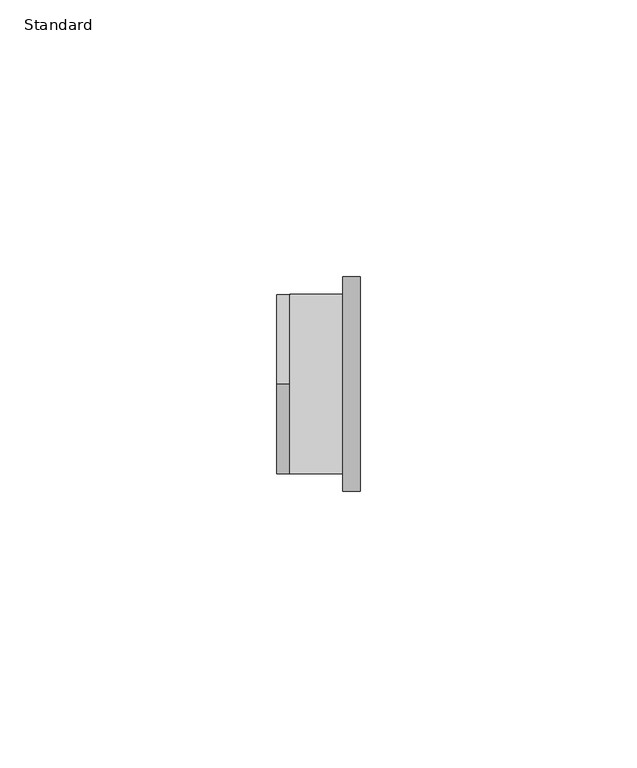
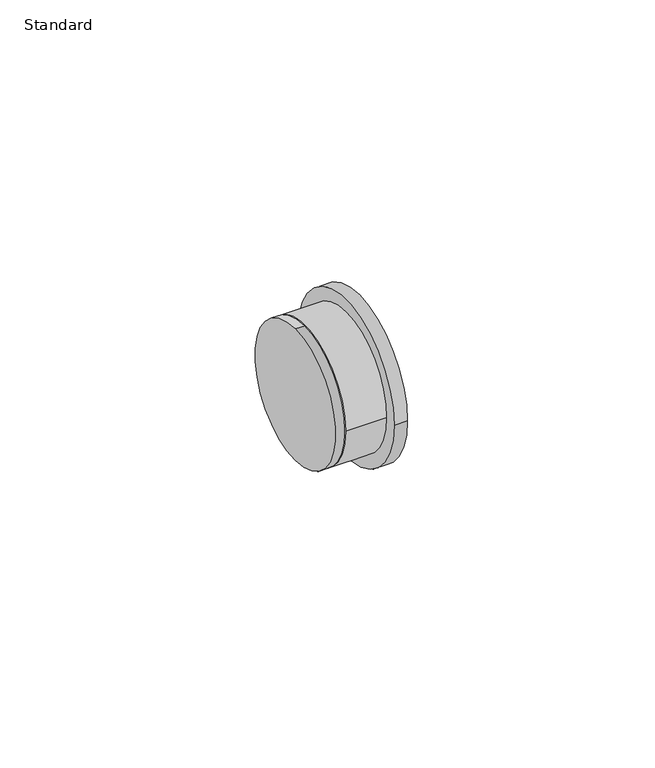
"""IFC4 building model written with IfcOpenShell, lengths in millimetres: pipe fitting geometry, Reducion Bushing_Lubrizol_CPVC_FlowGuard_MX : Standard."""

from ifc_helpers import new_model, si_unit, point, frame, origin, origin_2d, place, context, project, spatial, circle_curve, trimmed, segment, composite_curve, outline, extrude, source, transform, mapped, element, save


def standard_bea9125b(model_context):
    return source(origin(), model_context, "Body", "SweptSolid", [
        extrude(outline(composite_curve([segment(trimmed(circle_curve(origin_2d(), 16.23), [point((-16.23, 0.0))], [point((16.23, 0.0))], False, "CARTESIAN"), True, "CONTINUOUS"), segment(trimmed(circle_curve(origin_2d(), 16.23), [point((16.23, 0.0))], [point((-16.23, 0.0))], False, "CARTESIAN"), True, "CONTINUOUS")], self_intersect=False)), frame((2.375, 0.0, 0.0), z_axis=(1.0, 0.0, 0.0), x_axis=(0.0, 1.0, 0.0)), (0.0, 0.0, 1.0), 9.519),
        extrude(outline(composite_curve([segment(trimmed(circle_curve(origin_2d(), 19.35), [point((-19.35, 0.0))], [point((19.35, 0.0))], False, "CARTESIAN"), True, "CONTINUOUS"), segment(trimmed(circle_curve(origin_2d(), 19.35), [point((19.35, 0.0))], [point((-19.35, 0.0))], False, "CARTESIAN"), True, "CONTINUOUS")], self_intersect=False)), frame((11.894, 0.0, 0.0), z_axis=(1.0, 0.0, 0.0), x_axis=(0.0, 1.0, 0.0)), (0.0, 0.0, 1.0), 3.125),
        extrude(outline(composite_curve([segment(trimmed(circle_curve(origin_2d(), 16.23), [point((0.0, 16.23))], [point((0.0, -16.23))], False, "CARTESIAN"), True, "CONTINUOUS"), segment(trimmed(circle_curve(origin_2d(), 16.23), [point((0.0, -16.23))], [point((0.0, 16.23))], False, "CARTESIAN"), True, "CONTINUOUS")], self_intersect=False)), frame((0.0, 0.0, 0.0), z_axis=(1.0, 0.0, 0.0), x_axis=(0.0, 1.0, 0.0)), (0.0, 0.0, 1.0), 2.375),
    ])


if __name__ == "__main__":
    model = new_model("IFC4")
    model_context = context("Model", 3, world=origin())
    ifc_project = project(units=[si_unit("LENGTHUNIT", "METRE", prefix="MILLI")], contexts=[model_context])
    site = spatial("IfcSite", under=ifc_project)
    building = spatial("IfcBuilding", under=site)
    placement = place(None, origin())
    standard_shape = standard_bea9125b(model_context)
    element("IfcPipeFitting", 1, ObjectType="Reducion Bushing_Lubrizol_CPVC_FlowGuard_MX : Standard", at=placement, inside=building, context=model_context, shape_type="MappedRepresentation", body=[
        mapped(standard_shape, transform((0.0, 0.0, 0.0), x_axis=(1.0, 0.0, 0.0), y_axis=(0.0, 1.0, 0.0), z_axis=(0.0, 0.0, 1.0))),
    ])
    save(model, "model.ifc")
